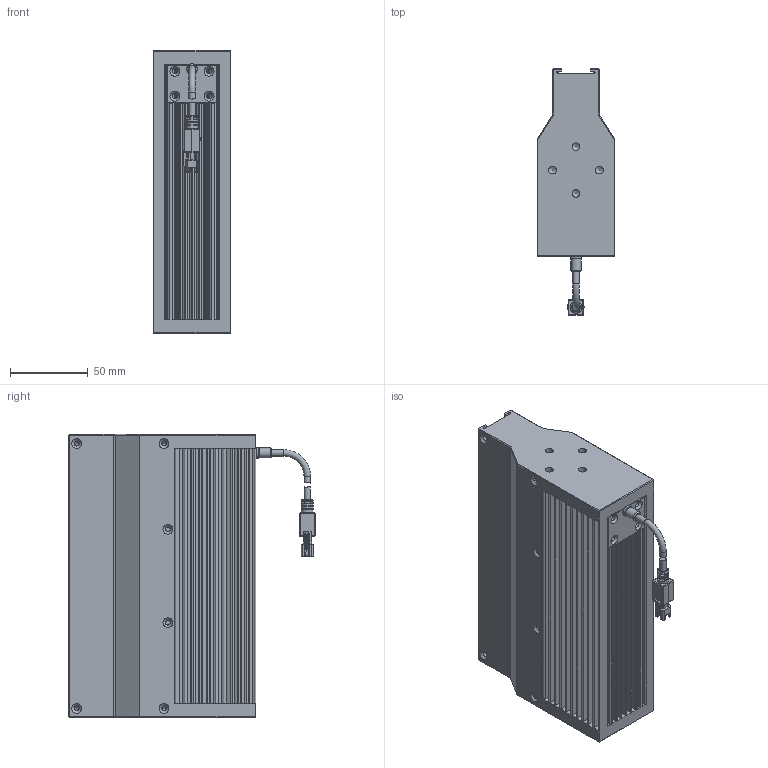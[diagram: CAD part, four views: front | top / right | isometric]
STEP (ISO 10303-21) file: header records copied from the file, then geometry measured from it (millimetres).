
FILE_DESCRIPTION (( 'STEP AP203' ), '1' );
FILE_NAME ('OPT-LSNL182-R-V1.0尨砩芞.STEP', '2025-02-17T08:42:01', ( '' ), ( '' ), 'SwSTEP 2.0', 'SolidWorks 2016', '' );
FILE_SCHEMA (( 'CONFIG_CONTROL_DESIGN' ));
Length unit declared in the file: millimetre
Products named in the file (1): OPT-LSNL182-R-V1.0尨砩芞
Bounding box: 50.02 x 158 x 182 mm (x, y, z)
Volume: 672686.9 mm3; surface area: 220374.2 mm2
Topology: 8 solids, 13 shells, 979 faces, 2693 edges, 1728 vertices
Faces by surface type: plane 586, cylinder 322, cone 42, bspline 21, torus 8
Full cylindrical faces by diameter (mm): 1.1 x2, 1.4 x2, 2.5 x8, 3 x8, 3.4 x16, 3.5 x1, 4.1 x4, 5 x8, 5.8 x1, 6.5 x1, 7 x1, 7.5 x1
Entity records: 33241 total; most frequent: CARTESIAN_POINT 9388, ORIENTED_EDGE 5064, DIRECTION 4645, EDGE_CURVE 2532, VERTEX_POINT 1674, VECTOR 1639, LINE 1639, AXIS2_PLACEMENT_3D 1503
